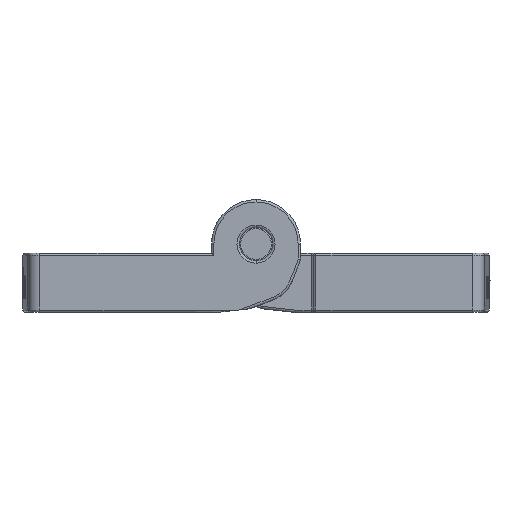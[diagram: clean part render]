
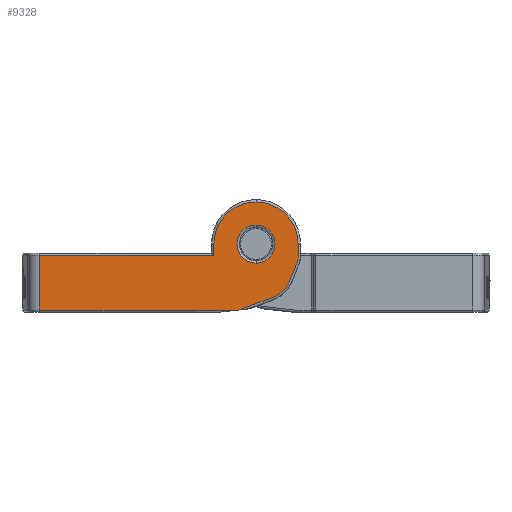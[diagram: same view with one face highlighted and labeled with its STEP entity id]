
A CAD part, front view. The second image highlights one B-rep face of the part: STEP entity #9328.
In plain terms, the highlighted planar face has unit normal (0, -1, 0) as drawn and (0, 1, 0) by its records, which use the part's own axes.
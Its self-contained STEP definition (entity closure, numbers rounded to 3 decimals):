
#19 = LINE ( 'NONE', #8278, #6264 ) ;
#246 = CIRCLE ( 'NONE', #2029, 3.55 ) ;
#325 = CARTESIAN_POINT ( 'NONE',  ( -2.328, 30., -3.894 ) ) ;
#370 = EDGE_CURVE ( 'NONE', #4778, #10551, #8480, .T. ) ;
#606 = LINE ( 'NONE', #2797, #6870 ) ;
#889 = CIRCLE ( 'NONE', #9685, 3.55 ) ;
#1042 = CARTESIAN_POINT ( 'NONE',  ( -1.356, 30., -4.523 ) ) ;
#1110 = CARTESIAN_POINT ( 'NONE',  ( -3.044, 30., -2.627 ) ) ;
#1173 = CARTESIAN_POINT ( 'NONE',  ( 18.209, 30., -0.95 ) ) ;
#1203 = CARTESIAN_POINT ( 'NONE',  ( 0., 30., 0. ) ) ;
#1223 = CARTESIAN_POINT ( 'NONE',  ( -3.55, 30., -1.258 ) ) ;
#1316 = CARTESIAN_POINT ( 'NONE',  ( 0., 30., 0. ) ) ;
#1381 = EDGE_CURVE ( 'NONE', #5271, #7066, #7823, .T. ) ;
#1421 = DIRECTION ( 'NONE',  ( 0., -1., 0. ) ) ;
#1772 = CARTESIAN_POINT ( 'NONE',  ( 0., 30., 0. ) ) ;
#1784 = CARTESIAN_POINT ( 'NONE',  ( 18.209, 30., -5.55 ) ) ;
#1827 = CARTESIAN_POINT ( 'NONE',  ( -0.817, 30., -4.744 ) ) ;
#1915 = VERTEX_POINT ( 'NONE', #4414 ) ;
#1957 = AXIS2_PLACEMENT_3D ( 'NONE', #2227, #1421, #6290 ) ;
#1972 = CARTESIAN_POINT ( 'NONE',  ( -2.808, 30., -3.161 ) ) ;
#2014 = DIRECTION ( 'NONE',  ( 0., 0., 1. ) ) ;
#2029 = AXIS2_PLACEMENT_3D ( 'NONE', #1316, #7006, #2123 ) ;
#2123 = DIRECTION ( 'NONE',  ( 0., 0., 1. ) ) ;
#2163 = ORIENTED_EDGE ( 'NONE', *, *, #7842, .T. ) ;
#2176 = CARTESIAN_POINT ( 'NONE',  ( -3.55, 30., -1.258 ) ) ;
#2227 = CARTESIAN_POINT ( 'NONE',  ( 0., 30., 0. ) ) ;
#2229 = PLANE ( 'NONE',  #5953 ) ;
#2254 = DIRECTION ( 'NONE',  ( 1., 0., 0. ) ) ;
#2282 = VECTOR ( 'NONE', #3603, 1000. ) ;
#2292 = CIRCLE ( 'NONE', #5663, 1.6 ) ;
#2387 = VERTEX_POINT ( 'NONE', #5987 ) ;
#2427 = ORIENTED_EDGE ( 'NONE', *, *, #5368, .T. ) ;
#2489 = ORIENTED_EDGE ( 'NONE', *, *, #1381, .T. ) ;
#2512 = ORIENTED_EDGE ( 'NONE', *, *, #3496, .T. ) ;
#2547 = FACE_BOUND ( 'NONE', #2646, .T. ) ;
#2569 = DIRECTION ( 'NONE',  ( 0., 0., 1. ) ) ;
#2646 = EDGE_LOOP ( 'NONE', ( #2489, #2427 ) ) ;
#2797 = CARTESIAN_POINT ( 'NONE',  ( 18.209, 30., -5.55 ) ) ;
#2800 = LINE ( 'NONE', #7983, #4976 ) ;
#2955 = EDGE_CURVE ( 'NONE', #7564, #2387, #246, .T. ) ;
#3040 = DIRECTION ( 'NONE',  ( 0., 0., 1. ) ) ;
#3169 = EDGE_CURVE ( 'NONE', #7461, #1915, #3810, .T. ) ;
#3480 = CARTESIAN_POINT ( 'NONE',  ( -1.624, 30., -4.404 ) ) ;
#3496 = EDGE_CURVE ( 'NONE', #9113, #10327, #6883, .T. ) ;
#3563 = CARTESIAN_POINT ( 'NONE',  ( -2.869, 30., -3.028 ) ) ;
#3603 = DIRECTION ( 'NONE',  ( -1., 0., 0. ) ) ;
#3613 = DIRECTION ( 'NONE',  ( 0., 0., -1. ) ) ;
#3810 = LINE ( 'NONE', #7247, #7920 ) ;
#4161 = EDGE_LOOP ( 'NONE', ( #10027, #8281, #2512, #7231, #7791, #2163, #7250, #8101, #4378 ) ) ;
#4175 = DIRECTION ( 'NONE',  ( -0.994, 0., 0.112 ) ) ;
#4329 = EDGE_CURVE ( 'NONE', #10327, #4778, #19, .T. ) ;
#4378 = ORIENTED_EDGE ( 'NONE', *, *, #3169, .T. ) ;
#4414 = CARTESIAN_POINT ( 'NONE',  ( 3.55, 30., -0.95 ) ) ;
#4507 = VERTEX_POINT ( 'NONE', #1173 ) ;
#4778 = VERTEX_POINT ( 'NONE', #7210 ) ;
#4976 = VECTOR ( 'NONE', #2254, 1000. ) ;
#5102 = CARTESIAN_POINT ( 'NONE',  ( -1.993, 30., -4.176 ) ) ;
#5217 = CARTESIAN_POINT ( 'NONE',  ( -2.111, 30., -4.091 ) ) ;
#5243 = EDGE_CURVE ( 'NONE', #2387, #7461, #889, .T. ) ;
#5271 = VERTEX_POINT ( 'NONE', #5863 ) ;
#5361 = CARTESIAN_POINT ( 'NONE',  ( -2.596, 30., -3.547 ) ) ;
#5368 = EDGE_CURVE ( 'NONE', #7066, #5271, #2292, .T. ) ;
#5376 = CARTESIAN_POINT ( 'NONE',  ( 0., 30., -1.6 ) ) ;
#5481 = CARTESIAN_POINT ( 'NONE',  ( 0., 30., 0. ) ) ;
#5645 = DIRECTION ( 'NONE',  ( 0., 0., -1. ) ) ;
#5663 = AXIS2_PLACEMENT_3D ( 'NONE', #1203, #6900, #2014 ) ;
#5863 = CARTESIAN_POINT ( 'NONE',  ( 0., 30., 1.6 ) ) ;
#5884 = CARTESIAN_POINT ( 'NONE',  ( 0.276, 30., -5.145 ) ) ;
#5953 = AXIS2_PLACEMENT_3D ( 'NONE', #5481, #7961, #3040 ) ;
#5987 = CARTESIAN_POINT ( 'NONE',  ( 0., 30., 3.55 ) ) ;
#6147 = CARTESIAN_POINT ( 'NONE',  ( -2.425, 30., -3.783 ) ) ;
#6264 = VECTOR ( 'NONE', #4175, 1000. ) ;
#6272 = CARTESIAN_POINT ( 'NONE',  ( -3.351, 30., -1.807 ) ) ;
#6290 = DIRECTION ( 'NONE',  ( 0., 0., 1. ) ) ;
#6374 = CARTESIAN_POINT ( 'NONE',  ( 1.473, 30., -5.55 ) ) ;
#6398 = CARTESIAN_POINT ( 'NONE',  ( 3.55, 30., 0. ) ) ;
#6645 = EDGE_CURVE ( 'NONE', #4507, #9113, #606, .T. ) ;
#6695 = CARTESIAN_POINT ( 'NONE',  ( -0.544, 30., -4.845 ) ) ;
#6815 = CARTESIAN_POINT ( 'NONE',  ( -3.45, 30., -1.532 ) ) ;
#6870 = VECTOR ( 'NONE', #3613, 1000. ) ;
#6883 = LINE ( 'NONE', #9312, #2282 ) ;
#6900 = DIRECTION ( 'NONE',  ( 0., -1., 0. ) ) ;
#6906 = FACE_OUTER_BOUND ( 'NONE', #4161, .T. ) ;
#7006 = DIRECTION ( 'NONE',  ( 0., 1., 0. ) ) ;
#7066 = VERTEX_POINT ( 'NONE', #5376 ) ;
#7210 = CARTESIAN_POINT ( 'NONE',  ( 1.372, 30., -5.539 ) ) ;
#7231 = ORIENTED_EDGE ( 'NONE', *, *, #4329, .T. ) ;
#7247 = CARTESIAN_POINT ( 'NONE',  ( 3.55, 30., -0.75 ) ) ;
#7250 = ORIENTED_EDGE ( 'NONE', *, *, #2955, .T. ) ;
#7395 = CARTESIAN_POINT ( 'NONE',  ( -3.55, 30., 0. ) ) ;
#7461 = VERTEX_POINT ( 'NONE', #6398 ) ;
#7465 = DIRECTION ( 'NONE',  ( 0., 1., 0. ) ) ;
#7564 = VERTEX_POINT ( 'NONE', #7395 ) ;
#7692 = CARTESIAN_POINT ( 'NONE',  ( -2.671, 30., -3.42 ) ) ;
#7791 = ORIENTED_EDGE ( 'NONE', *, *, #370, .T. ) ;
#7809 = DIRECTION ( 'NONE',  ( 0., 0., 1. ) ) ;
#7823 = CIRCLE ( 'NONE', #1957, 1.6 ) ;
#7842 = EDGE_CURVE ( 'NONE', #10551, #7564, #9520, .T. ) ;
#7920 = VECTOR ( 'NONE', #5645, 1000. ) ;
#7961 = DIRECTION ( 'NONE',  ( 0., 1., 0. ) ) ;
#7972 = CARTESIAN_POINT ( 'NONE',  ( 0.824, 30., -5.341 ) ) ;
#7983 = CARTESIAN_POINT ( 'NONE',  ( 19.15, 30., -0.95 ) ) ;
#8101 = ORIENTED_EDGE ( 'NONE', *, *, #5243, .T. ) ;
#8278 = CARTESIAN_POINT ( 'NONE',  ( 3.25, 30., -5.75 ) ) ;
#8281 = ORIENTED_EDGE ( 'NONE', *, *, #6645, .T. ) ;
#8480 = B_SPLINE_CURVE_WITH_KNOTS ( 'NONE', 3,
 ( #8771, #7972, #5884, #6695, #1827, #1042, #3480, #5102, #5217, #325, #6147, #5361, #7692, #1972, #3563, #1110, #9234, #6272, #6815, #1223 ),
 .UNSPECIFIED., .F., .F.,
 ( 4, 2, 2, 2, 2, 2, 2, 2, 2, 4 ),
 ( 0., 0.002, 0.003, 0.003, 0.004, 0.004, 0.005, 0.005, 0.006, 0.007 ),
 .UNSPECIFIED. ) ;
#8771 = CARTESIAN_POINT ( 'NONE',  ( 1.372, 30., -5.539 ) ) ;
#9113 = VERTEX_POINT ( 'NONE', #1784 ) ;
#9234 = CARTESIAN_POINT ( 'NONE',  ( -3.147, 30., -2.354 ) ) ;
#9312 = CARTESIAN_POINT ( 'NONE',  ( 3.25, 30., -5.55 ) ) ;
#9328 = ADVANCED_FACE ( 'NONE', ( #2547, #6906 ), #2229, .T. ) ;
#9517 = CARTESIAN_POINT ( 'NONE',  ( -3.55, 30., 0. ) ) ;
#9520 = LINE ( 'NONE', #9517, #9775 ) ;
#9685 = AXIS2_PLACEMENT_3D ( 'NONE', #1772, #7465, #2569 ) ;
#9775 = VECTOR ( 'NONE', #7809, 1000. ) ;
#9912 = EDGE_CURVE ( 'NONE', #1915, #4507, #2800, .T. ) ;
#10027 = ORIENTED_EDGE ( 'NONE', *, *, #9912, .T. ) ;
#10327 = VERTEX_POINT ( 'NONE', #6374 ) ;
#10551 = VERTEX_POINT ( 'NONE', #2176 ) ;
